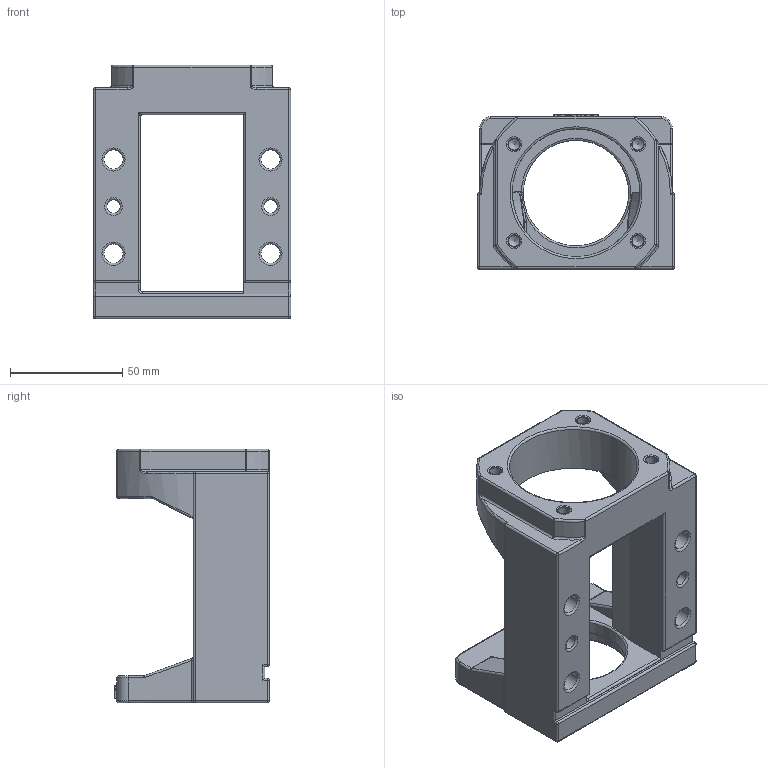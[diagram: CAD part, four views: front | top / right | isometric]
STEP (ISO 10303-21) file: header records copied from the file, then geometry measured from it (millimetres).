
FILE_DESCRIPTION(/* description */ (''),/* implementation_level */ '2;1');
FILE_NAME(/* name */ 'M60DP-FKA20-A.stp',/* time_stamp */ '2016-10-27T10:23:31+08:00',/* author */ (''),/* organization */ (''),/* preprocessor_version */ 'ST-DEVELOPER v15',/* originating_system */ 'SIEMENS PLM Software NX 8.5',/* authorisation */ '');
FILE_SCHEMA (('CONFIG_CONTROL_DESIGN'));
Length unit declared in the file: millimetre
Products named in the file (1): MBA20-DP
Bounding box: 88 x 69 x 113 mm (x, y, z)
Volume: 206936 mm3; surface area: 49818.1 mm2
Topology: 1 solids, 1 shells, 374 faces, 920 edges, 541 vertices
Faces by surface type: cylinder 109, plane 103, torus 47, extrusion 41, bspline 31, sphere 25, cone 18
Full cylindrical faces by diameter (mm): 3.3 x4, 5.1 x4, 6 x2, 8 x2, 8.5 x4, 14 x4, 47 x1, 50 x1, 57 x1
Entity records: 11956 total; most frequent: CARTESIAN_POINT 4054, ORIENTED_EDGE 1630, DIRECTION 1464, EDGE_CURVE 815, AXIS2_PLACEMENT_3D 574, VERTEX_POINT 525, EDGE_LOOP 466, ADVANCED_FACE 374
